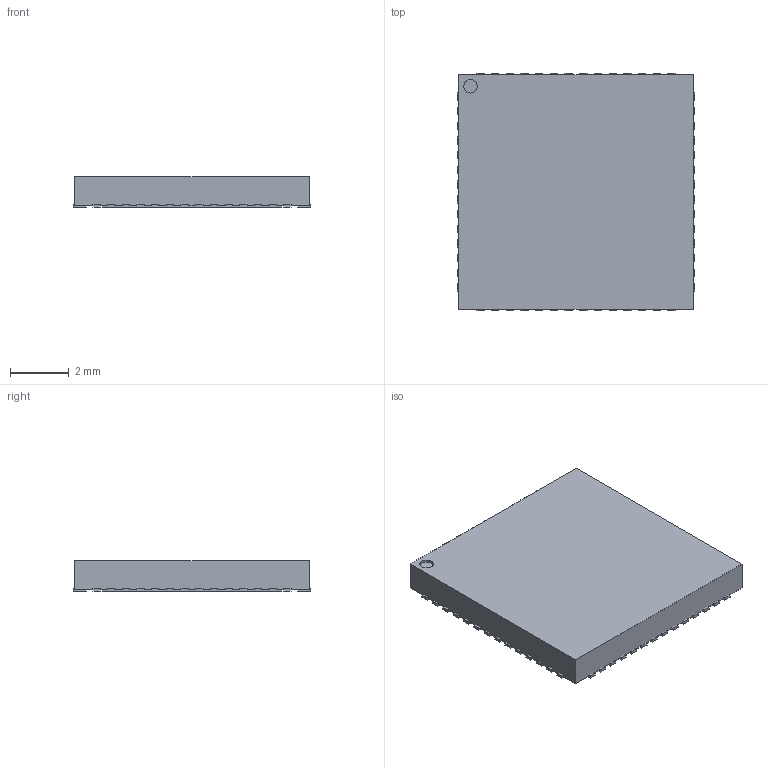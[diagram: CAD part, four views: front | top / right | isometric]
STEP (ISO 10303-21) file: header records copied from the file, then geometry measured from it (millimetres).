
FILE_DESCRIPTION(('FreeCAD Model'),'2;1');
FILE_NAME('Open CASCADE Shape Model','2026-10-15T00:26:03',('FreeCAD'),( 'FreeCAD'),'Open CASCADE STEP processor 7.8','FreeCAD','Unknown');
FILE_SCHEMA(('AUTOMOTIVE_DESIGN { 1 0 10303 214 1 1 1 1 }'));
Length unit declared in the file: millimetre
Products named in the file (1): Open CASCADE STEP translator 7.8 2
Bounding box: 8.1 x 8.1 x 1.05 mm (x, y, z)
Volume: 68.3 mm3; surface area: 257.4 mm2
Topology: 58 solids, 58 shells, 350 faces, 699 edges, 466 vertices
Faces by surface type: plane 349, cylinder 1
Full cylindrical faces by diameter (mm): 0.46 x1
Entity records: 8761 total; most frequent: CARTESIAN_POINT 1516, DIRECTION 1403, ORIENTED_EDGE 1398, EDGE_CURVE 699, LINE 697, VECTOR 697, VERTEX_POINT 466, AXIS2_PLACEMENT_3D 353
